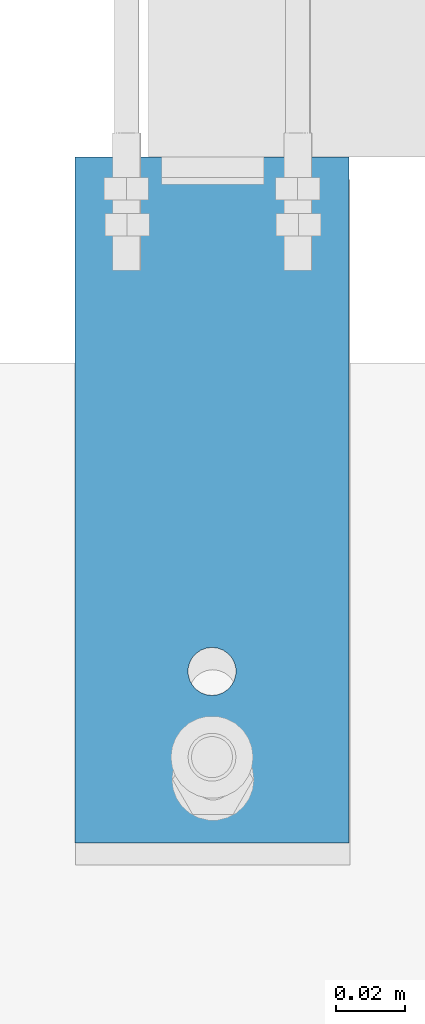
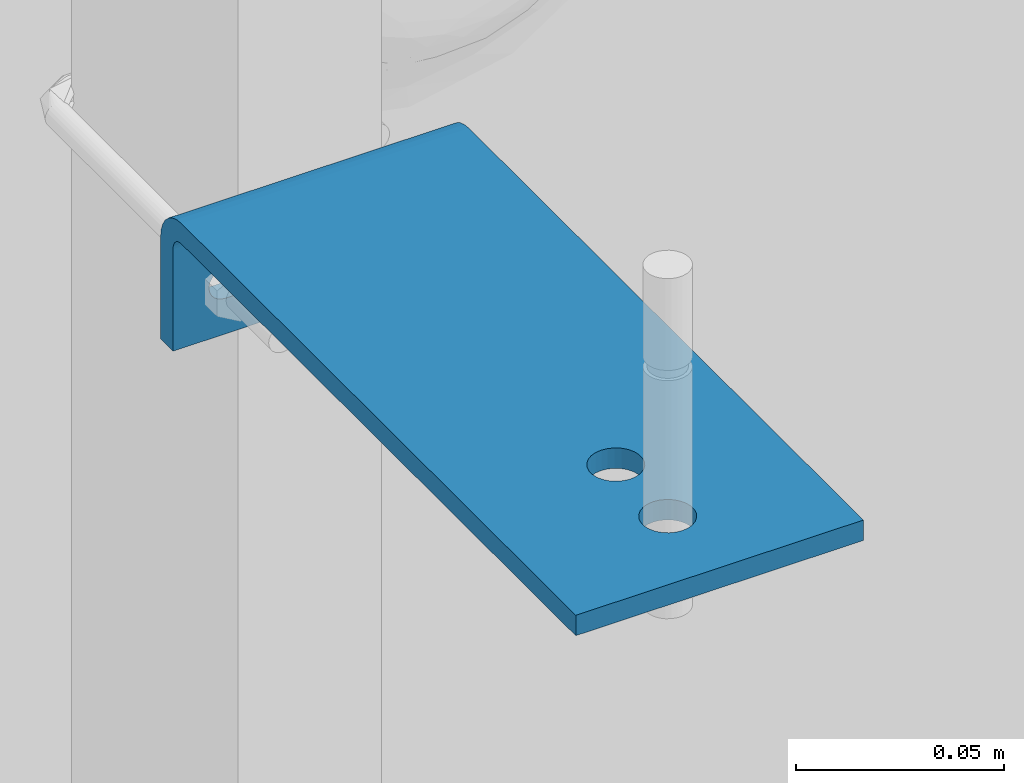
# One storey, part 6 of 13: 1 assembly, 4 openings.
"""IFC2X3 building model written with IfcOpenShell, lengths in metres."""

import ifcopenshell
import ifcopenshell.guid

model = None  # the IFC model being written
_history = None  # IfcOwnerHistory: only IFC2X3 demands one
_inside = {}  # id of a spatial element -> (the spatial element, [elements in it])
_under = {}  # id of a project, library or spatial element -> (it, [spatial elements below it])
_declared = {}  # id of a project -> (the project, [libraries it declares])
_typed = {}  # id of a type object -> (the type object, [elements of that type])
_made_of = {}  # id of a material, layer set ... -> (it, [elements and type objects made of it])


def new_model(schema):
    """Start an empty IFC model of exactly this schema.

    Asked for "IFC4X3", IfcOpenShell would pick the latest addendum, in which some entities
    have other attributes; the version numbers below select the first issue.
    IFC2X3 requires an IfcOwnerHistory on every rooted entity: one is made here for all.
    """
    global model, _history
    if schema == "IFC4X3":
        model = ifcopenshell.file(schema_version=(4, 3, 0, 0))
    else:
        model = ifcopenshell.file(schema=schema)
    _inside.clear()
    _under.clear()
    _declared.clear()
    _typed.clear()
    _made_of.clear()
    _history = None
    if model.schema == "IFC2X3":
        org = make("IfcOrganization", Name="unknown")
        user = make(
            "IfcPersonAndOrganization",
            ThePerson=make("IfcPerson", FamilyName="unknown"),
            TheOrganization=org,
        )
        app = make(
            "IfcApplication",
            ApplicationDeveloper=org,
            Version="unknown",
            ApplicationFullName="unknown",
            ApplicationIdentifier="unknown",
        )
        _history = make(
            "IfcOwnerHistory",
            OwningUser=user,
            OwningApplication=app,
            ChangeAction="ADDED",
            CreationDate=0,
        )
    return model


def make(cls, **values):
    """One entity of the class cls with the attributes given. An attribute that is None is left unset."""
    return model.create_entity(
        cls, **{name: value for name, value in values.items() if value is not None}
    )


def entity(cls, *values):
    """Any entity or typed value of the class cls, its attributes in the order of the schema. None: left unset."""
    e = model.create_entity(cls)
    for i, value in enumerate(values):
        if value is not None:
            e[i] = value
    return e


def rooted(cls, **values):
    """An entity with a GlobalId (a new one), such as an element, a storey or a relation."""
    return make(cls, GlobalId=ifcopenshell.guid.new(), OwnerHistory=_history, **values)


def si_unit(unit_type, name, prefix=None):
    """IfcSIUnit, for example si_unit("LENGTHUNIT", "METRE", prefix="MILLI")."""
    return make("IfcSIUnit", UnitType=unit_type, Prefix=prefix, Name=name)


def converted_unit(unit_type, name, factor, base, dimensions=None, offset=None):
    """IfcConversionBasedUnit, such as the inch: factor (a typed value) times the base unit."""
    return make(
        "IfcConversionBasedUnit"
        if offset is None
        else "IfcConversionBasedUnitWithOffset",
        ConversionOffset=offset,
        Dimensions=None
        if dimensions is None
        else entity("IfcDimensionalExponents", *dimensions),
        UnitType=unit_type,
        Name=name,
        ConversionFactor=make(
            "IfcMeasureWithUnit", ValueComponent=factor, UnitComponent=base
        ),
    )


def derived_unit(unit_type, elements):
    """IfcDerivedUnit: a product of units, each with its exponent."""
    return make(
        "IfcDerivedUnit",
        Elements=[
            make("IfcDerivedUnitElement", Unit=unit, Exponent=power)
            for unit, power in elements
        ],
        UnitType=unit_type,
    )


def assignment(units):
    """IfcUnitAssignment: the units of a project."""
    return None if units is None else make("IfcUnitAssignment", Units=units)


def point(xyz):
    """IfcCartesianPoint."""
    return None if xyz is None else make("IfcCartesianPoint", Coordinates=xyz)


def direction(xyz):
    """IfcDirection."""
    return None if xyz is None else make("IfcDirection", DirectionRatios=xyz)


def frame(location, z_axis=None, x_axis=None):
    """IfcAxis2Placement3D, a coordinate frame: its origin and axes. An axis left out is left unset."""
    return make(
        "IfcAxis2Placement3D",
        Location=point(location),
        Axis=direction(z_axis),
        RefDirection=direction(x_axis),
    )


def frame_2d(location, x_axis=None):
    """IfcAxis2Placement2D, a coordinate frame in the plane: its origin and x axis."""
    return make(
        "IfcAxis2Placement2D", Location=point(location), RefDirection=direction(x_axis)
    )


def origin():
    """The frame at (0, 0, 0) with its axes left unset."""
    return frame((0.0, 0.0, 0.0))


def place(relative_to, where):
    """IfcLocalPlacement: puts the frame where relative to a parent placement (None: the world)."""
    return make(
        "IfcLocalPlacement", PlacementRelTo=relative_to, RelativePlacement=where
    )


def context(
    kind, dimensions, precision=None, world=None, true_north=None, identifier=None
):
    """IfcGeometricRepresentationContext, for example the 3D "Model" context."""
    return make(
        "IfcGeometricRepresentationContext",
        ContextIdentifier=identifier,
        ContextType=kind,
        CoordinateSpaceDimension=dimensions,
        Precision=precision,
        WorldCoordinateSystem=world,
        TrueNorth=true_north,
    )


def subcontext(parent, identifier, kind, view, scale=None):
    """IfcGeometricRepresentationSubContext, for example "Body" below "Model"."""
    return make(
        "IfcGeometricRepresentationSubContext",
        ContextIdentifier=identifier,
        ContextType=kind,
        ParentContext=parent,
        TargetScale=scale,
        TargetView=view,
    )


def project(units=None, contexts=None):
    """IfcProject with its units and contexts."""
    return rooted(
        "IfcProject",
        Name="project",
        RepresentationContexts=contexts,
        UnitsInContext=assignment(units),
    )


def spatial(cls, under=None, at=None, **own):
    """A site, building, storey or space (cls), placed at a placement, below another one or the project."""
    s = rooted(cls, ObjectPlacement=at, **own)
    if under is not None:
        _under.setdefault(under.id(), (under, []))[1].append(s)
    return s


def polyline(points):
    """IfcPolyline through the points."""
    return make("IfcPolyline", Points=[point(p) for p in points])


def circle_curve(where, radius):
    """IfcCircle in the frame where."""
    return make("IfcCircle", Position=where, Radius=radius)


def parameter(value):
    """IfcParameterValue: where a trimmed curve begins or ends, as a parameter of its basis curve."""
    return model.create_entity("IfcParameterValue", value)


def trimmed(basis, trim1, trim2, sense, master):
    """IfcTrimmedCurve: the piece of a basis curve between two trims."""
    return make(
        "IfcTrimmedCurve",
        BasisCurve=basis,
        Trim1=trim1,
        Trim2=trim2,
        SenseAgreement=sense,
        MasterRepresentation=master,
    )


def segment(curve, same_sense, transition):
    """IfcCompositeCurveSegment."""
    return make(
        "IfcCompositeCurveSegment",
        Transition=transition,
        SameSense=same_sense,
        ParentCurve=curve,
    )


def composite_curve(segments, self_intersect=None):
    """IfcCompositeCurve: segments joined end to end."""
    return make("IfcCompositeCurve", Segments=segments, SelfIntersect=self_intersect)


def profile(cls, at=None, kind="AREA", **sizes):
    """A parametric profile (cls). Its sizes go by their IFC names, for example OverallWidth=200.0."""
    return make(cls, ProfileType=kind, Position=at, **sizes)


def circle(**sizes):
    """IfcCircleProfileDef."""
    return profile("IfcCircleProfileDef", **sizes)


def outline(outer, holes=None, kind="AREA"):
    """IfcArbitraryClosedProfileDef: a profile drawn as a closed curve; with holes, ...WithVoids."""
    if holes is None:
        return make("IfcArbitraryClosedProfileDef", ProfileType=kind, OuterCurve=outer)
    return make(
        "IfcArbitraryProfileDefWithVoids",
        ProfileType=kind,
        OuterCurve=outer,
        InnerCurves=holes,
    )


def extrude(swept, where, along, depth):
    """IfcExtrudedAreaSolid: the profile swept, set in the frame where, extruded along a direction by depth."""
    return make(
        "IfcExtrudedAreaSolid",
        SweptArea=swept,
        Position=where,
        ExtrudedDirection=direction(along),
        Depth=depth,
    )


def shape(context_of_items, identifier, shape_type, items):
    """IfcShapeRepresentation: the items that make up one representation, for example the "Body"."""
    return make(
        "IfcShapeRepresentation",
        ContextOfItems=context_of_items,
        RepresentationIdentifier=identifier,
        RepresentationType=shape_type,
        Items=items,
    )


def source(mapping_origin, context_of_items, identifier, shape_type, items):
    """IfcRepresentationMap: a shape defined once, which mapped items show again and again."""
    return make(
        "IfcRepresentationMap",
        MappingOrigin=mapping_origin,
        MappedRepresentation=shape(context_of_items, identifier, shape_type, items),
    )


def transform(
    local_origin,
    x_axis=None,
    y_axis=None,
    z_axis=None,
    scale=None,
    scale2=None,
    scale3=None,
    uniform=True,
):
    """IfcCartesianTransformationOperator3D, or its non-uniform kind. x_axis, y_axis, z_axis: its Axis1, 2, 3."""
    if uniform:
        return make(
            "IfcCartesianTransformationOperator3D",
            Axis1=direction(x_axis),
            Axis2=direction(y_axis),
            LocalOrigin=point(local_origin),
            Scale=scale,
            Axis3=direction(z_axis),
        )
    return make(
        "IfcCartesianTransformationOperator3DnonUniform",
        Axis1=direction(x_axis),
        Axis2=direction(y_axis),
        LocalOrigin=point(local_origin),
        Scale=scale,
        Axis3=direction(z_axis),
        Scale2=scale2,
        Scale3=scale3,
    )


def mapped(mapping_source, mapping_target):
    """IfcMappedItem: shows the shape of a source again, moved by a transform."""
    return make(
        "IfcMappedItem", MappingSource=mapping_source, MappingTarget=mapping_target
    )


def material(Name=None, Category=None):
    """IfcMaterial."""
    return make("IfcMaterial", Name=Name, Category=Category)


def made_of(thing, what):
    """Note that an element or type object is made of a material, layer set ...; save() writes the relation."""
    if what is not None:
        _made_of.setdefault(what.id(), (what, []))[1].append(thing)
    return thing


def type_object(cls, material=None, **own):
    """A type object (cls), such as IfcWallType, which elements share."""
    return made_of(rooted(cls, **own), material)


def type_shapes(of_type, sources):
    """Give a type object the sources (RepresentationMaps) that its elements show as mapped items."""
    of_type.RepresentationMaps = sources


def element(
    cls,
    number,
    at=None,
    inside=None,
    cuts=None,
    type_object=None,
    material=None,
    context=None,
    identifier="Body",
    shape_type=None,
    held_by="IfcProductDefinitionShape",
    body=None,
    shapes=None,
    **own,
):
    """One element of the class cls, such as IfcWall. Its Tag is "e" and its number.

    at: its placement. inside: the storey or other place that contains it. cuts: it is an
    opening in that element (IfcRelVoidsElement). A single representation is given by context,
    identifier, shape_type and body (its items); several are given by shapes. held_by: the class
    of the entity that holds the representations. save() writes the other relations.
    """
    e = rooted(cls, Tag="e%d" % number, ObjectPlacement=at, **own)
    if body is not None:
        shapes = [shape(context, identifier, shape_type, body)]
    if shapes is not None:
        e.Representation = make(held_by, Representations=shapes)
    if inside is not None:
        _inside.setdefault(inside.id(), (inside, []))[1].append(e)
    if cuts is not None:
        rooted(
            "IfcRelVoidsElement", RelatingBuildingElement=cuts, RelatedOpeningElement=e
        )
    if type_object is not None:
        _typed.setdefault(type_object.id(), (type_object, []))[1].append(e)
    return made_of(e, material)


def aggregate(whole, parts):
    """IfcRelAggregates: a whole, such as a stair, and the parts it consists of."""
    return rooted("IfcRelAggregates", RelatingObject=whole, RelatedObjects=parts)


def save(model, path):
    """Write the relations noted so far, then the file.

    IfcRelAggregates (storeys below a building ...), IfcRelContainedInSpatialStructure (elements
    in a storey), IfcRelDefinesByType, IfcRelAssociatesMaterial and IfcRelDeclares: one each for
    every whole, place, type object, material and project.
    """
    for whole, parts in _under.values():
        aggregate(whole, parts)
    for where, things in _inside.values():
        rooted(
            "IfcRelContainedInSpatialStructure",
            RelatedElements=things,
            RelatingStructure=where,
        )
    for kind, things in _typed.values():
        rooted("IfcRelDefinesByType", RelatedObjects=things, RelatingType=kind)
    for what, things in _made_of.values():
        rooted("IfcRelAssociatesMaterial", RelatedObjects=things, RelatingMaterial=what)
    for by, libraries in _declared.values():
        rooted("IfcRelDeclares", RelatingContext=by, RelatedDefinitions=libraries)
    model.write(path)


model = new_model("IFC2X3")

# Units and contexts
model_context = context("Model", 3, precision=1e-05, world=origin(), true_north=direction((6.123031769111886e-17, 1.0)))
body_context = subcontext(model_context, "Body", "Model", "MODEL_VIEW")
ifc_project = project(units=[si_unit("LENGTHUNIT", "METRE"), si_unit("AREAUNIT", "SQUARE_METRE"), converted_unit("PLANEANGLEUNIT", "DEGREE", entity("IfcPlaneAngleMeasure", 0.017453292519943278), si_unit("PLANEANGLEUNIT", "RADIAN"), dimensions=[0, 0, 0, 0, 0, 0, 0]), si_unit("VOLUMEUNIT", "CUBIC_METRE"), derived_unit("THERMALTRANSMITTANCEUNIT", [(si_unit("MASSUNIT", "GRAM", prefix="KILO"), 1), (si_unit("THERMODYNAMICTEMPERATUREUNIT", "KELVIN"), -1), (si_unit("TIMEUNIT", "SECOND"), -3)]), derived_unit("USERDEFINED", [(si_unit("MASSUNIT", "GRAM", prefix="KILO"), 1), (si_unit("THERMODYNAMICTEMPERATUREUNIT", "KELVIN"), -1), (si_unit("TIMEUNIT", "SECOND"), -2)]), derived_unit("THERMALRESISTANCEUNIT", [(si_unit("MASSUNIT", "GRAM", prefix="KILO"), -1), (si_unit("TIMEUNIT", "SECOND"), 3), (si_unit("THERMODYNAMICTEMPERATUREUNIT", "KELVIN"), 1)]), derived_unit("MASSDENSITYUNIT", [(si_unit("MASSUNIT", "GRAM", prefix="KILO"), 1), (si_unit("LENGTHUNIT", "METRE"), -3)]), derived_unit("VAPORPERMEABILITYUNIT", [(si_unit("LENGTHUNIT", "METRE"), -1), (si_unit("TIMEUNIT", "SECOND"), 1)]), derived_unit("USERDEFINED", [(si_unit("MASSUNIT", "GRAM", prefix="KILO"), 1), (si_unit("TIMEUNIT", "SECOND"), -3), (si_unit("LENGTHUNIT", "METRE"), 3), (si_unit("ELECTRICCURRENTUNIT", "AMPERE"), -2)]), si_unit("PRESSUREUNIT", "PASCAL")], contexts=[model_context])

# Site, building, storey
site_placement = place(None, origin())
site = spatial("IfcSite", under=ifc_project, at=site_placement, Name="Default", CompositionType="ELEMENT")
building_placement = place(site_placement, origin())
building = spatial("IfcBuilding", under=site, at=building_placement, CompositionType="ELEMENT")
storey_placement = place(building_placement, origin())
storey = spatial("IfcBuildingStorey", under=building, at=storey_placement, Name="L0", CompositionType="ELEMENT", Elevation=0.0)

# Assembly, openings
ifc_material = material(Name="REC_Acero, S 275JR (Zincado)")
type_product = type_object("IfcTypeProduct", Name="REC-PA200406R:PA200406R", material=ifc_material)
shared_shape = source(origin(), body_context, "Body", "SweptSolid", [
    extrude(outline(composite_curve([segment(polyline([(0.04400000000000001, -0.008), (-0.14600000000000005, -0.008)]), True, "CONTINUOUS"), segment(polyline([(-0.14600000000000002, -0.008), (-0.14600000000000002, -0.013999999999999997)]), True, "CONTINUOUS"), segment(polyline([(-0.14600000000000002, -0.013999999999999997), (0.044000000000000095, -0.014)]), True, "CONTINUOUS"), segment(trimmed(circle_curve(frame_2d((0.04400000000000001, -0.004), x_axis=(1.0, 0.0)), 0.01), [parameter(269.9999999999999)], [parameter(0.0)], True, "PARAMETER"), True, "CONTINUOUS"), segment(polyline([(0.05400000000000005, -0.003999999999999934), (0.05400000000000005, 0.02599999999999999)]), True, "CONTINUOUS"), segment(polyline([(0.05400000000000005, 0.02599999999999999), (0.04799999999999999, 0.02599999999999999)]), True, "CONTINUOUS"), segment(polyline([(0.04799999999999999, 0.02599999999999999), (0.048000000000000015, -0.003999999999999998)]), True, "CONTINUOUS"), segment(trimmed(circle_curve(frame_2d((0.04400000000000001, -0.004), x_axis=(1.0, 0.0)), 0.004), [parameter(270.00000000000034)], [parameter(3.5622212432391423e-13)], True, "PARAMETER"), False, "CONTINUOUS")], self_intersect=False)), frame((-0.04000000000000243, -0.14600000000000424, 0.013999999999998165), z_axis=(-1.0, 0.0, 0.0), x_axis=(0.0, -1.0, 0.0)), (0.0, 0.0, -1.0), 0.08000000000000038),
])
type_shapes(type_product, [shared_shape])
assembly_placement = place(storey_placement, frame((4.956247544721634, 15.794530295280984, 2.719999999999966), z_axis=(0.0, 0.0, -1.0), x_axis=(1.0, 0.0, 0.0)))
assembly = element("IfcElementAssembly", 1, at=assembly_placement, inside=storey, type_object=type_product, material=ifc_material, Name="REC-PA200406R:PA200406R", ObjectType="REC-PA200406R:PA200406R", AssemblyPlace="NOTDEFINED", PredefinedType="NOTDEFINED", context=body_context, shape_type="MappedRepresentation", body=[
    mapped(shared_shape, transform((0.0, 0.0, 0.0), scale=1.0)),
])
opening_1_placement = place(storey_placement, frame((4.956247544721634, 15.794530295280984, 2.719999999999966)))
element("IfcOpeningElement", 2, at=opening_1_placement, cuts=assembly, Name="REC-PA200406R:PA200406R:1", ObjectType="Opening", context=body_context, shape_type="SweptSolid", body=[
    extrude(outline(composite_curve([segment(trimmed(circle_curve(frame_2d((0.0, -0.002999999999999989), x_axis=(1.0, 0.0)), 0.0045000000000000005), [parameter(180.00000000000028)], [parameter(4.0711099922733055e-13)], True, "PARAMETER"), True, "CONTINUOUS"), segment(polyline([(0.004500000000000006, -0.0029999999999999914), (0.004499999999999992, 0.0030000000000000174)]), True, "CONTINUOUS"), segment(trimmed(circle_curve(frame_2d((0.0, 0.0030000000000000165), x_axis=(1.0, 0.0)), 0.0045000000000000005), [parameter(0.0)], [parameter(179.99999999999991)], True, "PARAMETER"), True, "CONTINUOUS"), segment(polyline([(-0.004500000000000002, 0.0030000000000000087), (-0.004499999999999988, -0.0029999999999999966)]), True, "CONTINUOUS")], self_intersect=False)), frame((0.022499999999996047, 0.20000000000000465, -0.02499999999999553), z_axis=(0.0, -1.0, 0.0), x_axis=(0.0, 0.0, -1.0)), (0.0, 0.0, 1.0), 0.006000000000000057),
])
opening_2_placement = place(storey_placement, frame((4.956247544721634, 15.794530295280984, 2.719999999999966)))
element("IfcOpeningElement", 3, at=opening_2_placement, cuts=assembly, Name="REC-PA200406R:PA200406R:2", ObjectType="Opening", context=body_context, shape_type="SweptSolid", body=[
    extrude(outline(composite_curve([segment(trimmed(circle_curve(frame_2d((0.0, -0.002999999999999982), x_axis=(1.0, 0.0)), 0.0045000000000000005), [parameter(180.0000000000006)], [parameter(4.0711099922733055e-13)], True, "PARAMETER"), True, "CONTINUOUS"), segment(polyline([(0.004500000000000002, -0.0029999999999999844), (0.004499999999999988, 0.003000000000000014)]), True, "CONTINUOUS"), segment(trimmed(circle_curve(frame_2d((0.0, 0.0030000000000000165), x_axis=(1.0, 0.0)), 0.0045000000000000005), [parameter(0.0)], [parameter(179.99999999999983)], True, "PARAMETER"), True, "CONTINUOUS"), segment(polyline([(-0.004500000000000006, 0.0030000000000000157), (-0.004499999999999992, -0.0029999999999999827)]), True, "CONTINUOUS")], self_intersect=False)), frame((-0.022500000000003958, 0.20000000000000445, -0.024999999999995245), z_axis=(0.0, -1.0, 0.0), x_axis=(0.0, 0.0, -1.0)), (0.0, 0.0, 1.0), 0.006000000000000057),
])
opening_3_placement = place(storey_placement, frame((4.956247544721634, 15.794530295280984, 2.719999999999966)))
element("IfcOpeningElement", 4, at=opening_3_placement, cuts=assembly, Name="REC-PA200406R:PA200406R:3", ObjectType="Opening", context=body_context, shape_type="SweptSolid", body=[
    extrude(circle(Radius=0.007, at=frame_2d((8.294912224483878e-32, -4.3949368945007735e-17), x_axis=(1.0, 0.0))), frame((0.0, 0.050000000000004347, -0.005999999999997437), z_axis=(0.0, 0.0, 1.0), x_axis=(0.0, 1.0, 0.0)), (0.0, 0.0, 1.0), 0.006),
])
opening_4_placement = place(storey_placement, frame((4.956247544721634, 15.794530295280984, 2.719999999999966)))
element("IfcOpeningElement", 5, at=opening_4_placement, cuts=assembly, Name="REC-PA200406R:PA200406R:4", ObjectType="Opening", context=body_context, shape_type="SweptSolid", body=[
    extrude(circle(Radius=0.007, at=frame_2d((9.174985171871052e-32, -4.861230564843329e-17), x_axis=(1.0, 0.0))), frame((0.0, 0.025000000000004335, -0.005999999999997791), z_axis=(0.0, 0.0, 1.0), x_axis=(0.0, -1.0, 0.0)), (0.0, 0.0, 1.0), 0.006),
])

save(model, "model.ifc")
